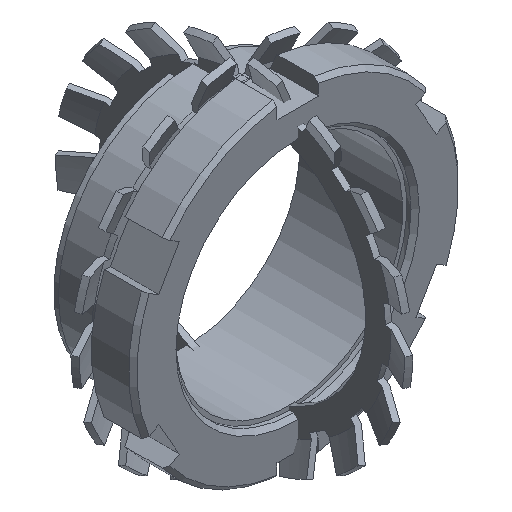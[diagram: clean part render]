
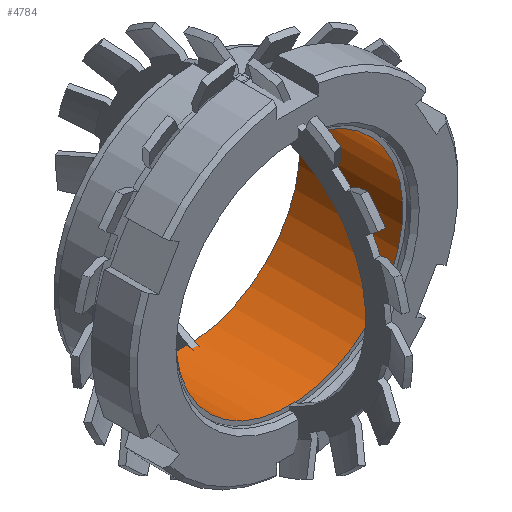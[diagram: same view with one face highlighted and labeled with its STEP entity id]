
A CAD part, isometric view. The second image highlights one B-rep face of the part: STEP entity #4784.
In plain terms, the highlighted cylindrical face has radius 27.5 mm (diameter 55 mm), a partial arc.
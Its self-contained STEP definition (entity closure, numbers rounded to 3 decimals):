
#4784 = ADVANCED_FACE( '', ( #6460 ), #6461, .F. );
#6460 = FACE_OUTER_BOUND( '', #6666, .T. );
#6461 = CYLINDRICAL_SURFACE( '', #6667, 27.5 );
#6666 = EDGE_LOOP( '', ( #7064, #7065, #7066, #7067 ) );
#6667 = AXIS2_PLACEMENT_3D( '', #7068, #7069, #7070 );
#7064 = ORIENTED_EDGE( '', *, *, #7402, .F. );
#7065 = ORIENTED_EDGE( '', *, *, #7403, .F. );
#7066 = ORIENTED_EDGE( '', *, *, #7404, .T. );
#7067 = ORIENTED_EDGE( '', *, *, #7405, .T. );
#7068 = CARTESIAN_POINT( '', ( 0., -60., 0. ) );
#7069 = DIRECTION( '', ( 0., 1., 0. ) );
#7070 = DIRECTION( '', ( 0., 0., -1. ) );
#7402 = EDGE_CURVE( '', #7600, #7601, #7602, .T. );
#7403 = EDGE_CURVE( '', #7603, #7600, #7604, .T. );
#7404 = EDGE_CURVE( '', #7603, #7605, #7606, .T. );
#7405 = EDGE_CURVE( '', #7605, #7601, #7607, .T. );
#7600 = VERTEX_POINT( '', #7970 );
#7601 = VERTEX_POINT( '', #7971 );
#7602 = LINE( '', #7972, #7973 );
#7603 = VERTEX_POINT( '', #7974 );
#7604 = CIRCLE( '', #7975, 27.5 );
#7605 = VERTEX_POINT( '', #7976 );
#7606 = LINE( '', #7977, #7978 );
#7607 = CIRCLE( '', #7979, 27.5 );
#7970 = CARTESIAN_POINT( '', ( 4., 13.5, 27.208 ) );
#7971 = CARTESIAN_POINT( '', ( 4., -11.5, 27.208 ) );
#7972 = CARTESIAN_POINT( '', ( 4., -60., 27.208 ) );
#7973 = VECTOR( '', #8138, 1000. );
#7974 = CARTESIAN_POINT( '', ( -4., 13.5, 27.208 ) );
#7975 = AXIS2_PLACEMENT_3D( '', #8139, #8140, #8141 );
#7976 = CARTESIAN_POINT( '', ( -4., -11.5, 27.208 ) );
#7977 = CARTESIAN_POINT( '', ( -4., -60., 27.208 ) );
#7978 = VECTOR( '', #8142, 1000. );
#7979 = AXIS2_PLACEMENT_3D( '', #8143, #8144, #8145 );
#8138 = DIRECTION( '', ( 0., -1., 0. ) );
#8139 = CARTESIAN_POINT( '', ( 0., 13.5, 0. ) );
#8140 = DIRECTION( '', ( 0., -1., 0. ) );
#8141 = DIRECTION( '', ( 0., 0., -1. ) );
#8142 = DIRECTION( '', ( 0., -1., 0. ) );
#8143 = CARTESIAN_POINT( '', ( 0., -11.5, 0. ) );
#8144 = DIRECTION( '', ( 0., -1., 0. ) );
#8145 = DIRECTION( '', ( 0., 0., -1. ) );
